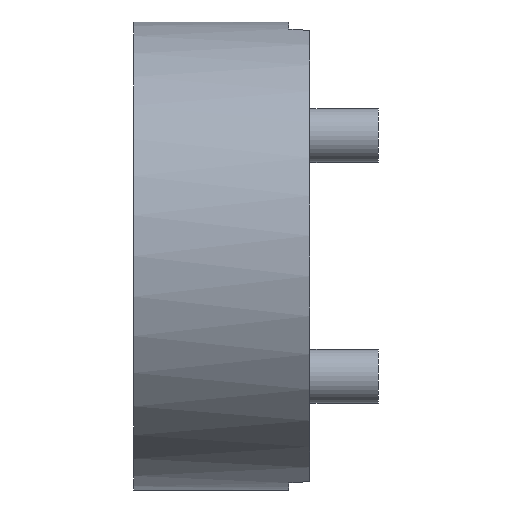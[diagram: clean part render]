
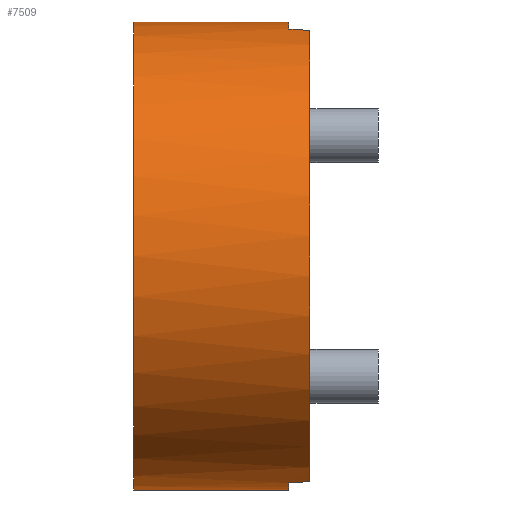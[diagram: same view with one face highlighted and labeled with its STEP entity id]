
A CAD part, left-side view. The second image highlights one B-rep face of the part: STEP entity #7509.
In plain terms, the highlighted cylindrical face has radius 14.287 mm (diameter 28.575 mm), a partial arc.
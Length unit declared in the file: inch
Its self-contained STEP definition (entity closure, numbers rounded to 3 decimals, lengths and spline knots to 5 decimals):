
#160 = CARTESIAN_POINT ( 'NONE',  ( 0., 0.2115, 0.5625 ) ) ;
#345 = CARTESIAN_POINT ( 'NONE',  ( -0.14555, -0.19489, -0.54336 ) ) ;
#523 = CARTESIAN_POINT ( 'NONE',  ( 0., -0.1615, 0. ) ) ;
#626 = DIRECTION ( 'NONE',  ( 0., 1., 0. ) ) ;
#665 = AXIS2_PLACEMENT_3D ( 'NONE', #1825, #2625, #4742 ) ;
#997 = DIRECTION ( 'NONE',  ( 0., 1., 0. ) ) ;
#1035 = EDGE_CURVE ( 'NONE', #8115, #8578, #2457, .T. ) ;
#1154 = EDGE_CURVE ( 'NONE', #2195, #8910, #8611, .T. ) ;
#1280 = AXIS2_PLACEMENT_3D ( 'NONE', #523, #626, #1383 ) ;
#1285 = CARTESIAN_POINT ( 'NONE',  ( 0., 0.2115, 0. ) ) ;
#1383 = DIRECTION ( 'NONE',  ( 0., 0., 1. ) ) ;
#1455 = DIRECTION ( 'NONE',  ( 0., -1., 0. ) ) ;
#1563 = ORIENTED_EDGE ( 'NONE', *, *, #2584, .T. ) ;
#1824 = DIRECTION ( 'NONE',  ( 0., -1., 0. ) ) ;
#1825 = CARTESIAN_POINT ( 'NONE',  ( 0., -0.1615, 0. ) ) ;
#1923 = AXIS2_PLACEMENT_3D ( 'NONE', #7203, #6550, #5711 ) ;
#1939 = CYLINDRICAL_SURFACE ( 'NONE', #3849, 0.5625 ) ;
#2195 = VERTEX_POINT ( 'NONE', #3829 ) ;
#2424 = CARTESIAN_POINT ( 'NONE',  ( -0.14108, -0.17822, -0.54454 ) ) ;
#2457 = CIRCLE ( 'NONE', #2599, 0.5625 ) ;
#2530 = CARTESIAN_POINT ( 'NONE',  ( 0., 0.2115, 0.5625 ) ) ;
#2584 = EDGE_CURVE ( 'NONE', #8115, #6419, #8722, .T. ) ;
#2599 = AXIS2_PLACEMENT_3D ( 'NONE', #8128, #997, #6683 ) ;
#2625 = DIRECTION ( 'NONE',  ( 0., 1., 0. ) ) ;
#2895 = DIRECTION ( 'NONE',  ( 0., -1., 0. ) ) ;
#3082 = ORIENTED_EDGE ( 'NONE', *, *, #4721, .F. ) ;
#3440 =( BOUNDED_CURVE ( )  B_SPLINE_CURVE ( 3, ( #7439, #2424, #345, #5425 ),
 .UNSPECIFIED., .F., .F. ) 
 B_SPLINE_CURVE_WITH_KNOTS ( ( 4, 4 ),
 ( 4.95769, 4.98232 ),
 .UNSPECIFIED. ) 
 CURVE ( )  GEOMETRIC_REPRESENTATION_ITEM ( )  RATIONAL_B_SPLINE_CURVE ( ( 1., 1., 1., 1. ) ) 
 REPRESENTATION_ITEM ( '' )  );
#3702 =( BOUNDED_CURVE ( )  B_SPLINE_CURVE ( 3, ( #7372, #3814, #6056, #3939 ),
 .UNSPECIFIED., .F., .F. ) 
 B_SPLINE_CURVE_WITH_KNOTS ( ( 4, 4 ),
 ( 1.30086, 1.32549 ),
 .UNSPECIFIED. ) 
 CURVE ( )  GEOMETRIC_REPRESENTATION_ITEM ( )  RATIONAL_B_SPLINE_CURVE ( ( 1., 1., 1., 1. ) ) 
 REPRESENTATION_ITEM ( '' )  );
#3725 = ORIENTED_EDGE ( 'NONE', *, *, #4477, .T. ) ;
#3814 = CARTESIAN_POINT ( 'NONE',  ( -0.14555, -0.19489, 0.54336 ) ) ;
#3829 = CARTESIAN_POINT ( 'NONE',  ( -0.1366, -0.1615, 0.54566 ) ) ;
#3849 = AXIS2_PLACEMENT_3D ( 'NONE', #1285, #2895, #5007 ) ;
#3939 = CARTESIAN_POINT ( 'NONE',  ( -0.1366, -0.1615, 0.54566 ) ) ;
#3972 = CIRCLE ( 'NONE', #1280, 0.5625 ) ;
#4477 = EDGE_CURVE ( 'NONE', #4848, #8359, #5260, .T. ) ;
#4721 = EDGE_CURVE ( 'NONE', #8578, #8910, #5597, .T. ) ;
#4742 = DIRECTION ( 'NONE',  ( 0., 0., 1. ) ) ;
#4848 = VERTEX_POINT ( 'NONE', #8256 ) ;
#5007 = DIRECTION ( 'NONE',  ( 0., 0., -1. ) ) ;
#5076 = CARTESIAN_POINT ( 'NONE',  ( 0., 0.2115, -0.5625 ) ) ;
#5082 = CARTESIAN_POINT ( 'NONE',  ( 0., 0.2115, -0.5625 ) ) ;
#5260 = CIRCLE ( 'NONE', #1923, 0.5625 ) ;
#5408 = EDGE_CURVE ( 'NONE', #7750, #4848, #3440, .T. ) ;
#5425 = CARTESIAN_POINT ( 'NONE',  ( -0.15, -0.2115, -0.54213 ) ) ;
#5566 = FACE_OUTER_BOUND ( 'NONE', #8847, .T. ) ;
#5597 = LINE ( 'NONE', #2530, #9293 ) ;
#5600 = CARTESIAN_POINT ( 'NONE',  ( -0.1366, -0.1615, -0.54566 ) ) ;
#5711 = DIRECTION ( 'NONE',  ( 0., 0., 1. ) ) ;
#6056 = CARTESIAN_POINT ( 'NONE',  ( -0.14108, -0.17822, 0.54454 ) ) ;
#6419 = VERTEX_POINT ( 'NONE', #8058 ) ;
#6502 = ORIENTED_EDGE ( 'NONE', *, *, #1154, .T. ) ;
#6550 = DIRECTION ( 'NONE',  ( 0., 1., 0. ) ) ;
#6578 = EDGE_CURVE ( 'NONE', #6419, #7750, #3972, .T. ) ;
#6683 = DIRECTION ( 'NONE',  ( 0., 0., 1. ) ) ;
#6743 = VECTOR ( 'NONE', #1455, 39.37008 ) ;
#7052 = ORIENTED_EDGE ( 'NONE', *, *, #5408, .T. ) ;
#7068 = CARTESIAN_POINT ( 'NONE',  ( 0., -0.1615, 0.5625 ) ) ;
#7081 = ORIENTED_EDGE ( 'NONE', *, *, #1035, .F. ) ;
#7111 = ORIENTED_EDGE ( 'NONE', *, *, #7884, .T. ) ;
#7203 = CARTESIAN_POINT ( 'NONE',  ( 0., -0.2115, 0. ) ) ;
#7372 = CARTESIAN_POINT ( 'NONE',  ( -0.15, -0.2115, 0.54213 ) ) ;
#7439 = CARTESIAN_POINT ( 'NONE',  ( -0.1366, -0.1615, -0.54566 ) ) ;
#7509 = ADVANCED_FACE ( 'NONE', ( #5566 ), #1939, .T. ) ;
#7750 = VERTEX_POINT ( 'NONE', #5600 ) ;
#7884 = EDGE_CURVE ( 'NONE', #8359, #2195, #3702, .T. ) ;
#8058 = CARTESIAN_POINT ( 'NONE',  ( 0., -0.1615, -0.5625 ) ) ;
#8115 = VERTEX_POINT ( 'NONE', #5082 ) ;
#8128 = CARTESIAN_POINT ( 'NONE',  ( 0., 0.2115, 0. ) ) ;
#8256 = CARTESIAN_POINT ( 'NONE',  ( -0.15, -0.2115, -0.54213 ) ) ;
#8327 = CARTESIAN_POINT ( 'NONE',  ( -0.15, -0.2115, 0.54213 ) ) ;
#8359 = VERTEX_POINT ( 'NONE', #8327 ) ;
#8575 = ORIENTED_EDGE ( 'NONE', *, *, #6578, .T. ) ;
#8578 = VERTEX_POINT ( 'NONE', #160 ) ;
#8611 = CIRCLE ( 'NONE', #665, 0.5625 ) ;
#8722 = LINE ( 'NONE', #5076, #6743 ) ;
#8847 = EDGE_LOOP ( 'NONE', ( #3082, #7081, #1563, #8575, #7052, #3725, #7111, #6502 ) ) ;
#8910 = VERTEX_POINT ( 'NONE', #7068 ) ;
#9293 = VECTOR ( 'NONE', #1824, 39.37008 ) ;
